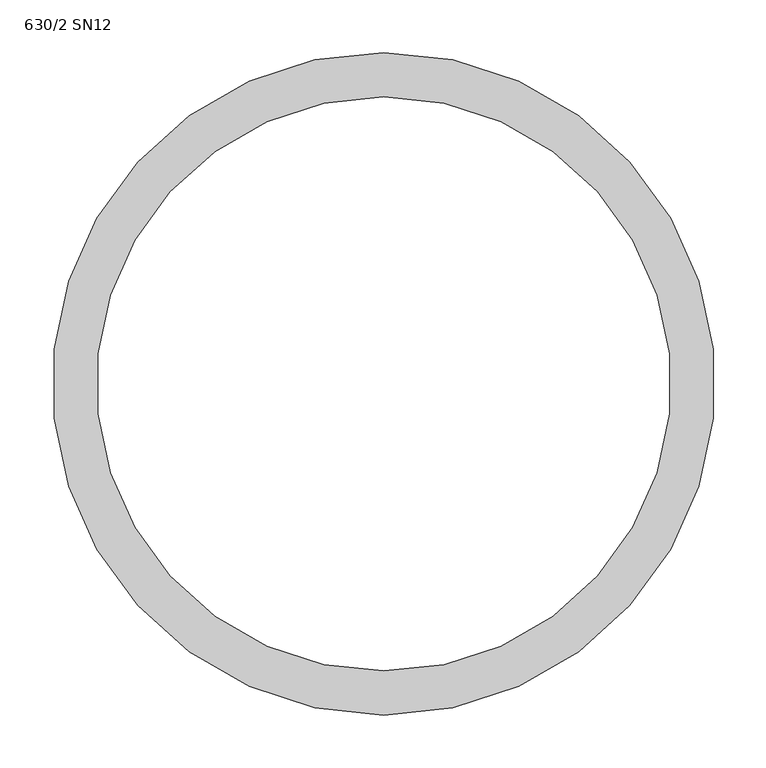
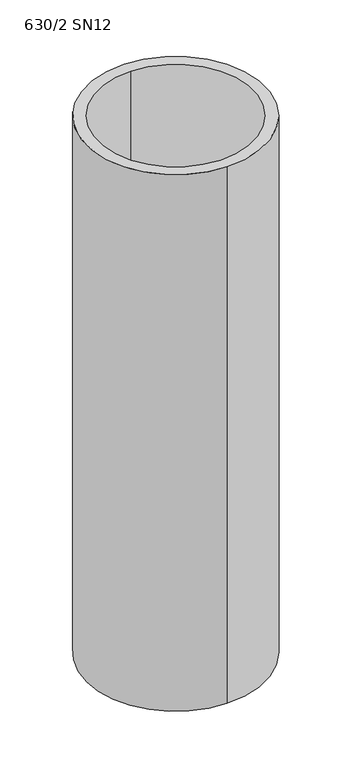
"""IFC4 building model written with IfcOpenShell, lengths in millimetres: valve geometry, Pipelife - Studnia PRO - Rura trzonowa 630 : 630/2 SN12."""

from ifc_helpers import new_model, si_unit, point, origin, origin_with_axes, origin_2d, place, context, project, spatial, circle_curve, trimmed, segment, composite_curve, outline, extrude, source, transform, mapped, element, save


def valve_630_2_sn12_89dc7bf2(model_context):
    return source(origin(), model_context, "Body", "SweptSolid", [
        extrude(outline(composite_curve([segment(trimmed(circle_curve(origin_2d(), 315.0), [point((0.0, 315.0))], [point((0.0, -315.0))], False, "CARTESIAN"), True, "CONTINUOUS"), segment(trimmed(circle_curve(origin_2d(), 315.0), [point((0.0, -315.0))], [point((0.0, 315.0))], False, "CARTESIAN"), True, "CONTINUOUS")], self_intersect=False), holes=[composite_curve([segment(trimmed(circle_curve(origin_2d(), 273.0), [point((0.0, 273.0))], [point((0.0, -273.0))], True, "CARTESIAN"), True, "CONTINUOUS"), segment(trimmed(circle_curve(origin_2d(), 273.0), [point((0.0, -273.0))], [point((0.0, 273.0))], True, "CARTESIAN"), True, "CONTINUOUS")], self_intersect=False)]), origin_with_axes(), (0.0, 0.0, 1.0), 2000.0),
    ])


if __name__ == "__main__":
    model = new_model("IFC4")
    model_context = context("Model", 3, world=origin())
    ifc_project = project(units=[si_unit("LENGTHUNIT", "METRE", prefix="MILLI")], contexts=[model_context])
    site = spatial("IfcSite", under=ifc_project)
    building = spatial("IfcBuilding", under=site)
    placement = place(None, origin())
    valve_630_2_sn12_shape = valve_630_2_sn12_89dc7bf2(model_context)
    element("IfcValve", 1, ObjectType="Pipelife - Studnia PRO - Rura trzonowa 630 : 630/2 SN12", at=placement, inside=building, context=model_context, shape_type="MappedRepresentation", body=[
        mapped(valve_630_2_sn12_shape, transform((0.0, 0.0, 0.0), x_axis=(1.0, 0.0, 0.0), y_axis=(0.0, 1.0, 0.0), z_axis=(0.0, 0.0, 1.0))),
    ])
    save(model, "model.ifc")
